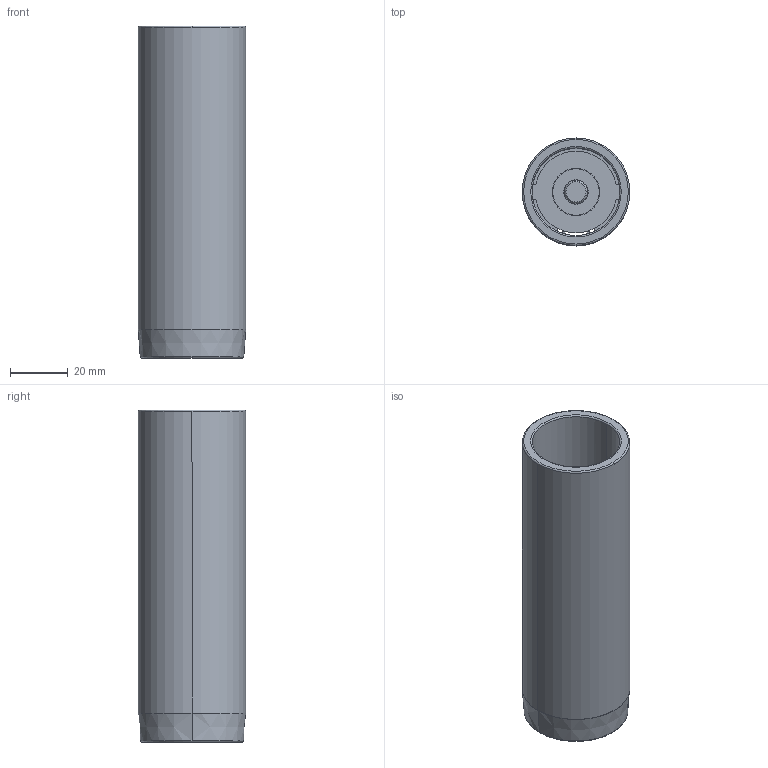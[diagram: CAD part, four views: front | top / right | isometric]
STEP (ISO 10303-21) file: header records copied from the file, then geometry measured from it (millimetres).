
FILE_DESCRIPTION((''),'2;1');
FILE_NAME('C12_030_115.stp','2009-01-28T09:47:06',(''),(''),'Mechanical Desktop 2009','Mechanical Desktop 2009',', , ');
FILE_SCHEMA(('CONFIG_CONTROL_DESIGN'));
Length unit declared in the file: millimetre
Products named in the file (2): Product; blmdl1
Assembly tree (1 placements, depth 2):
  Product
    blmdl1
Bounding box: 37.25 x 37.25 x 115 mm (x, y, z)
Volume: 44587.6 mm3; surface area: 29427.2 mm2
Topology: 5 solids, 5 shells, 79 faces, 200 edges, 134 vertices
Faces by surface type: cylinder 34, plane 29, torus 10, cone 6
Entity records: 2585 total; most frequent: DIRECTION 480, CARTESIAN_POINT 435, ORIENTED_EDGE 400, AXIS2_PLACEMENT_3D 203, EDGE_CURVE 200, VERTEX_POINT 134, CIRCLE 122, EDGE_LOOP 92
